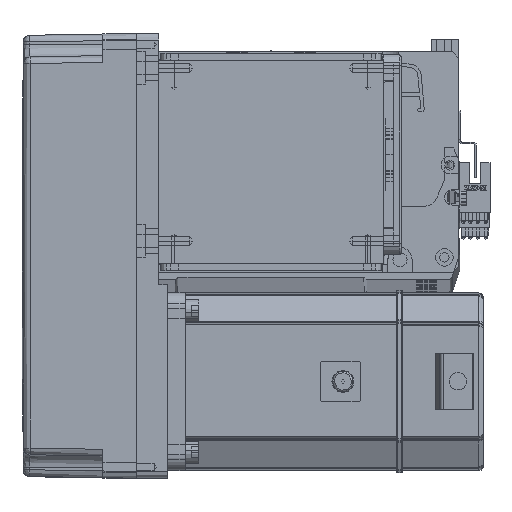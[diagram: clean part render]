
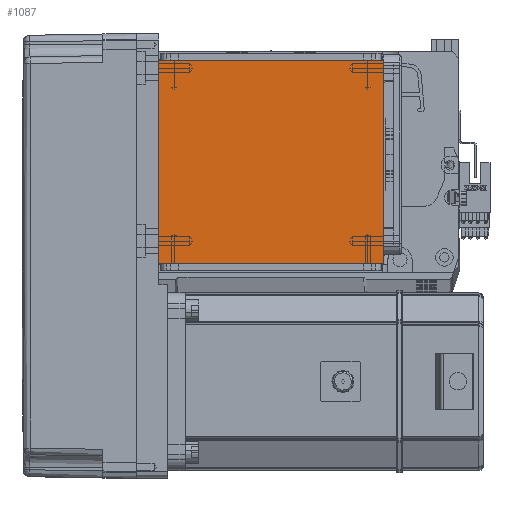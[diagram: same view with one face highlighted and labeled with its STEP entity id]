
A CAD part, top view. The second image highlights one B-rep face of the part: STEP entity #1087.
In plain terms, the highlighted planar face has unit normal (0, 0, 1).
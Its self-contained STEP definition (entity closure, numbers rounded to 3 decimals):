
#1087 = ADVANCED_FACE ( 'NONE', ( #44980 ), #53259, .T. ) ;
#3232 = EDGE_CURVE ( 'NONE', #23220, #45427, #16566, .T. ) ;
#7933 = LINE ( 'NONE', #67497, #18963 ) ;
#8140 = EDGE_CURVE ( 'NONE', #56793, #32094, #7933, .T. ) ;
#8990 = CARTESIAN_POINT ( 'NONE',  ( 0., 0., 115. ) ) ;
#9863 = CARTESIAN_POINT ( 'NONE',  ( 50.5, 122., 115. ) ) ;
#10757 = EDGE_LOOP ( 'NONE', ( #51006, #53358, #24913, #48332 ) ) ;
#11451 = VECTOR ( 'NONE', #53407, 1000. ) ;
#16566 = LINE ( 'NONE', #9863, #11451 ) ;
#18963 = VECTOR ( 'NONE', #23214, 1000. ) ;
#21727 = DIRECTION ( 'NONE',  ( 1., 0., 0. ) ) ;
#23214 = DIRECTION ( 'NONE',  ( 0., -1., 0. ) ) ;
#23220 = VERTEX_POINT ( 'NONE', #69184 ) ;
#24913 = ORIENTED_EDGE ( 'NONE', *, *, #55129, .F. ) ;
#27275 = LINE ( 'NONE', #52098, #46857 ) ;
#32094 = VERTEX_POINT ( 'NONE', #39459 ) ;
#39459 = CARTESIAN_POINT ( 'NONE',  ( -50.5, 20., 115. ) ) ;
#40958 = DIRECTION ( 'NONE',  ( -1., 0., 0. ) ) ;
#43042 = DIRECTION ( 'NONE',  ( 1., 0., 0. ) ) ;
#43338 = LINE ( 'NONE', #59856, #48450 ) ;
#44980 = FACE_OUTER_BOUND ( 'NONE', #10757, .T. ) ;
#45427 = VERTEX_POINT ( 'NONE', #57932 ) ;
#46857 = VECTOR ( 'NONE', #40958, 1000. ) ;
#47131 = CARTESIAN_POINT ( 'NONE',  ( -50.5, 111.5, 115. ) ) ;
#48332 = ORIENTED_EDGE ( 'NONE', *, *, #3232, .T. ) ;
#48450 = VECTOR ( 'NONE', #21727, 1000. ) ;
#48502 = DIRECTION ( 'NONE',  ( 0., 0., 1. ) ) ;
#51006 = ORIENTED_EDGE ( 'NONE', *, *, #56196, .F. ) ;
#52098 = CARTESIAN_POINT ( 'NONE',  ( -70.004, 20., 115. ) ) ;
#53259 = PLANE ( 'NONE',  #59568 ) ;
#53358 = ORIENTED_EDGE ( 'NONE', *, *, #8140, .T. ) ;
#53407 = DIRECTION ( 'NONE',  ( 0., 1., 0. ) ) ;
#55129 = EDGE_CURVE ( 'NONE', #23220, #32094, #27275, .T. ) ;
#56196 = EDGE_CURVE ( 'NONE', #56793, #45427, #43338, .T. ) ;
#56793 = VERTEX_POINT ( 'NONE', #47131 ) ;
#57932 = CARTESIAN_POINT ( 'NONE',  ( 50.5, 111.5, 115. ) ) ;
#59568 = AXIS2_PLACEMENT_3D ( 'NONE', #8990, #48502, #43042 ) ;
#59856 = CARTESIAN_POINT ( 'NONE',  ( -70.004, 111.5, 115. ) ) ;
#67497 = CARTESIAN_POINT ( 'NONE',  ( -50.5, 122., 115. ) ) ;
#69184 = CARTESIAN_POINT ( 'NONE',  ( 50.5, 20., 115. ) ) ;
